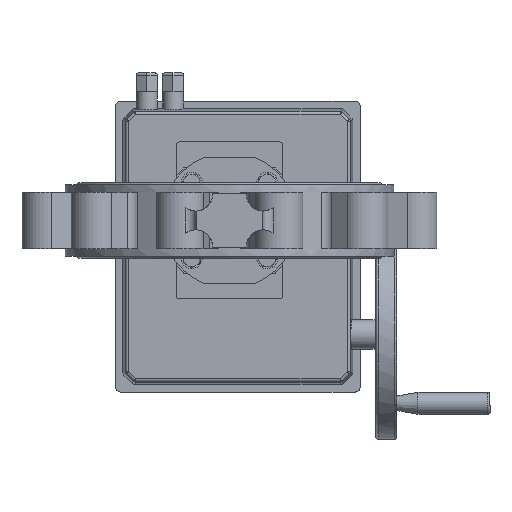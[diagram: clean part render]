
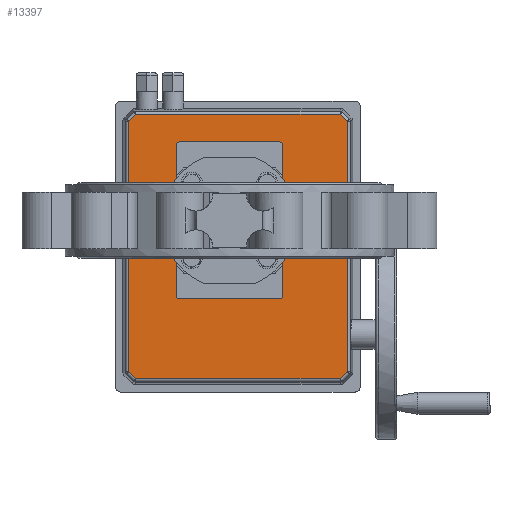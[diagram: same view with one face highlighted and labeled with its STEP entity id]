
A CAD part, front view. The second image highlights one B-rep face of the part: STEP entity #13397.
In plain terms, the highlighted planar face has unit normal (0, -1, 0).
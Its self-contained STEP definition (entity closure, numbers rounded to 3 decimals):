
#174 = VECTOR ( 'NONE', #16774, 1000. ) ;
#366 = CARTESIAN_POINT ( 'NONE',  ( -72., -75., 48. ) ) ;
#471 = LINE ( 'NONE', #15876, #16979 ) ;
#564 = ORIENTED_EDGE ( 'NONE', *, *, #6956, .T. ) ;
#608 = EDGE_CURVE ( 'NONE', #19175, #8300, #27344, .T. ) ;
#700 = CARTESIAN_POINT ( 'NONE',  ( 75., -75., 48. ) ) ;
#922 = LINE ( 'NONE', #12405, #4927 ) ;
#978 = DIRECTION ( 'NONE',  ( 0., 0., -1. ) ) ;
#984 = EDGE_CURVE ( 'NONE', #16453, #8447, #26239, .T. ) ;
#1000 = CARTESIAN_POINT ( 'NONE',  ( -94.715, -75., -96.484 ) ) ;
#1097 = ORIENTED_EDGE ( 'NONE', *, *, #14363, .T. ) ;
#1288 = VECTOR ( 'NONE', #10530, 1000. ) ;
#1617 = EDGE_CURVE ( 'NONE', #6068, #19175, #26420, .T. ) ;
#1689 = ORIENTED_EDGE ( 'NONE', *, *, #20429, .T. ) ;
#1759 = ORIENTED_EDGE ( 'NONE', *, *, #17259, .T. ) ;
#1865 = CIRCLE ( 'NONE', #28609, 3. ) ;
#1939 = VERTEX_POINT ( 'NONE', #23985 ) ;
#2468 = EDGE_CURVE ( 'NONE', #6594, #29268, #28672, .T. ) ;
#2844 = CARTESIAN_POINT ( 'NONE',  ( -72., -75., -51. ) ) ;
#3269 = LINE ( 'NONE', #26451, #16759 ) ;
#3652 = DIRECTION ( 'NONE',  ( 0., 0., 1. ) ) ;
#3805 = CARTESIAN_POINT ( 'NONE',  ( 0., -75., 0. ) ) ;
#3958 = VECTOR ( 'NONE', #20339, 1000. ) ;
#4221 = ORIENTED_EDGE ( 'NONE', *, *, #16002, .T. ) ;
#4443 = CARTESIAN_POINT ( 'NONE',  ( 151.484, -75., 0. ) ) ;
#4564 = CARTESIAN_POINT ( 'NONE',  ( -101.484, -75., -89.715 ) ) ;
#4615 = LINE ( 'NONE', #24953, #17229 ) ;
#4670 = DIRECTION ( 'NONE',  ( 0., 0., -1. ) ) ;
#4927 = VECTOR ( 'NONE', #12261, 1000. ) ;
#5162 = DIRECTION ( 'NONE',  ( 0., 1., 0. ) ) ;
#5848 = EDGE_LOOP ( 'NONE', ( #16765, #20793, #8059, #6428, #4221, #1689, #564, #12343 ) ) ;
#5898 = EDGE_CURVE ( 'NONE', #28412, #18847, #23726, .T. ) ;
#6007 = FACE_OUTER_BOUND ( 'NONE', #5848, .T. ) ;
#6068 = VERTEX_POINT ( 'NONE', #1000 ) ;
#6428 = ORIENTED_EDGE ( 'NONE', *, *, #608, .T. ) ;
#6440 = PLANE ( 'NONE',  #18400 ) ;
#6594 = VERTEX_POINT ( 'NONE', #16052 ) ;
#6792 = CARTESIAN_POINT ( 'NONE',  ( 120.6, -75., -120.6 ) ) ;
#6956 = EDGE_CURVE ( 'NONE', #21837, #16453, #3269, .T. ) ;
#6963 = DIRECTION ( 'NONE',  ( 0., 1., 0. ) ) ;
#7406 = DIRECTION ( 'NONE',  ( 0., 0., 1. ) ) ;
#7719 = EDGE_CURVE ( 'NONE', #17512, #6068, #4615, .T. ) ;
#8059 = ORIENTED_EDGE ( 'NONE', *, *, #1617, .T. ) ;
#8274 = CARTESIAN_POINT ( 'NONE',  ( 0., -75., -96.484 ) ) ;
#8300 = VERTEX_POINT ( 'NONE', #14404 ) ;
#8319 = CARTESIAN_POINT ( 'NONE',  ( 128.6, -75., 128.6 ) ) ;
#8447 = VERTEX_POINT ( 'NONE', #28813 ) ;
#8653 = ORIENTED_EDGE ( 'NONE', *, *, #5898, .T. ) ;
#8913 = DIRECTION ( 'NONE',  ( -0.707, 0., 0.707 ) ) ;
#8943 = VERTEX_POINT ( 'NONE', #29465 ) ;
#8960 = VECTOR ( 'NONE', #16257, 1000. ) ;
#9450 = DIRECTION ( 'NONE',  ( 0., 1., 0. ) ) ;
#10331 = CIRCLE ( 'NONE', #26600, 3. ) ;
#10530 = DIRECTION ( 'NONE',  ( 1., 0., 0. ) ) ;
#11190 = LINE ( 'NONE', #22746, #3958 ) ;
#11519 = VECTOR ( 'NONE', #978, 1000. ) ;
#11706 = ORIENTED_EDGE ( 'NONE', *, *, #17917, .F. ) ;
#12261 = DIRECTION ( 'NONE',  ( 0., 0., -1. ) ) ;
#12343 = ORIENTED_EDGE ( 'NONE', *, *, #984, .T. ) ;
#12405 = CARTESIAN_POINT ( 'NONE',  ( -101.484, -75., -90.915 ) ) ;
#12427 = DIRECTION ( 'NONE',  ( -0.707, 0., -0.707 ) ) ;
#13397 = ADVANCED_FACE ( 'NONE', ( #6007, #15141 ), #6440, .F. ) ;
#14012 = EDGE_CURVE ( 'NONE', #8943, #25156, #15573, .T. ) ;
#14363 = EDGE_CURVE ( 'NONE', #18847, #8943, #471, .T. ) ;
#14404 = CARTESIAN_POINT ( 'NONE',  ( 151.484, -75., -89.715 ) ) ;
#14562 = DIRECTION ( 'NONE',  ( 0., 0., 1. ) ) ;
#15141 = FACE_BOUND ( 'NONE', #24261, .T. ) ;
#15161 = EDGE_CURVE ( 'NONE', #18294, #29268, #10331, .T. ) ;
#15506 = LINE ( 'NONE', #8319, #15518 ) ;
#15518 = VECTOR ( 'NONE', #8913, 1000. ) ;
#15573 = CIRCLE ( 'NONE', #19394, 3. ) ;
#15876 = CARTESIAN_POINT ( 'NONE',  ( 75., -75., 0. ) ) ;
#15940 = DIRECTION ( 'NONE',  ( 0.707, 0., 0.707 ) ) ;
#16002 = EDGE_CURVE ( 'NONE', #8300, #19786, #25079, .T. ) ;
#16052 = CARTESIAN_POINT ( 'NONE',  ( -75., -75., 48. ) ) ;
#16257 = DIRECTION ( 'NONE',  ( 0., 0., 1. ) ) ;
#16453 = VERTEX_POINT ( 'NONE', #22377 ) ;
#16759 = VECTOR ( 'NONE', #28371, 1000. ) ;
#16765 = ORIENTED_EDGE ( 'NONE', *, *, #17871, .T. ) ;
#16774 = DIRECTION ( 'NONE',  ( 1., 0., 0. ) ) ;
#16979 = VECTOR ( 'NONE', #4670, 1000. ) ;
#17033 = AXIS2_PLACEMENT_3D ( 'NONE', #25540, #6963, #7406 ) ;
#17229 = VECTOR ( 'NONE', #20314, 1000. ) ;
#17259 = EDGE_CURVE ( 'NONE', #1939, #28412, #11190, .T. ) ;
#17512 = VERTEX_POINT ( 'NONE', #4564 ) ;
#17871 = EDGE_CURVE ( 'NONE', #8447, #17512, #922, .T. ) ;
#17917 = EDGE_CURVE ( 'NONE', #18294, #25156, #25619, .T. ) ;
#18294 = VERTEX_POINT ( 'NONE', #2844 ) ;
#18400 = AXIS2_PLACEMENT_3D ( 'NONE', #3805, #19781, #3652 ) ;
#18737 = CARTESIAN_POINT ( 'NONE',  ( -102.332, -75., 104.867 ) ) ;
#18847 = VERTEX_POINT ( 'NONE', #700 ) ;
#19175 = VERTEX_POINT ( 'NONE', #21692 ) ;
#19249 = CARTESIAN_POINT ( 'NONE',  ( 72., -75., -48. ) ) ;
#19394 = AXIS2_PLACEMENT_3D ( 'NONE', #19249, #21949, #28705 ) ;
#19781 = DIRECTION ( 'NONE',  ( 0., 1., 0. ) ) ;
#19786 = VERTEX_POINT ( 'NONE', #27141 ) ;
#19822 = CARTESIAN_POINT ( 'NONE',  ( -75., -75., 0. ) ) ;
#20207 = CARTESIAN_POINT ( 'NONE',  ( 72., -75., -51. ) ) ;
#20314 = DIRECTION ( 'NONE',  ( 0.707, 0., -0.707 ) ) ;
#20339 = DIRECTION ( 'NONE',  ( 1., 0., 0. ) ) ;
#20429 = EDGE_CURVE ( 'NONE', #19786, #21837, #15506, .T. ) ;
#20793 = ORIENTED_EDGE ( 'NONE', *, *, #7719, .T. ) ;
#21240 = CARTESIAN_POINT ( 'NONE',  ( 0., -75., -51. ) ) ;
#21278 = ORIENTED_EDGE ( 'NONE', *, *, #2468, .F. ) ;
#21692 = CARTESIAN_POINT ( 'NONE',  ( 144.715, -75., -96.484 ) ) ;
#21837 = VERTEX_POINT ( 'NONE', #26400 ) ;
#21949 = DIRECTION ( 'NONE',  ( 0., 1., 0. ) ) ;
#22377 = CARTESIAN_POINT ( 'NONE',  ( -94.715, -75., 112.484 ) ) ;
#22746 = CARTESIAN_POINT ( 'NONE',  ( 0., -75., 51. ) ) ;
#23726 = CIRCLE ( 'NONE', #17033, 3. ) ;
#23985 = CARTESIAN_POINT ( 'NONE',  ( -72., -75., 51. ) ) ;
#24261 = EDGE_LOOP ( 'NONE', ( #21278, #25270, #1759, #8653, #1097, #28625, #11706, #27338 ) ) ;
#24953 = CARTESIAN_POINT ( 'NONE',  ( -95.6, -75., -95.6 ) ) ;
#25079 = LINE ( 'NONE', #4443, #8960 ) ;
#25156 = VERTEX_POINT ( 'NONE', #20207 ) ;
#25270 = ORIENTED_EDGE ( 'NONE', *, *, #27398, .T. ) ;
#25478 = DIRECTION ( 'NONE',  ( 0., 0., 1. ) ) ;
#25540 = CARTESIAN_POINT ( 'NONE',  ( 72., -75., 48. ) ) ;
#25619 = LINE ( 'NONE', #21240, #174 ) ;
#25692 = CARTESIAN_POINT ( 'NONE',  ( -72., -75., -48. ) ) ;
#26239 = LINE ( 'NONE', #18737, #29169 ) ;
#26400 = CARTESIAN_POINT ( 'NONE',  ( 144.715, -75., 112.484 ) ) ;
#26420 = LINE ( 'NONE', #8274, #1288 ) ;
#26451 = CARTESIAN_POINT ( 'NONE',  ( -95.915, -75., 112.484 ) ) ;
#26600 = AXIS2_PLACEMENT_3D ( 'NONE', #25692, #5162, #14562 ) ;
#27141 = CARTESIAN_POINT ( 'NONE',  ( 151.484, -75., 105.715 ) ) ;
#27338 = ORIENTED_EDGE ( 'NONE', *, *, #15161, .T. ) ;
#27344 = LINE ( 'NONE', #6792, #29012 ) ;
#27398 = EDGE_CURVE ( 'NONE', #6594, #1939, #1865, .T. ) ;
#28371 = DIRECTION ( 'NONE',  ( -1., 0., 0. ) ) ;
#28412 = VERTEX_POINT ( 'NONE', #29121 ) ;
#28609 = AXIS2_PLACEMENT_3D ( 'NONE', #366, #9450, #25478 ) ;
#28625 = ORIENTED_EDGE ( 'NONE', *, *, #14012, .T. ) ;
#28672 = LINE ( 'NONE', #19822, #11519 ) ;
#28705 = DIRECTION ( 'NONE',  ( 0., 0., 1. ) ) ;
#28813 = CARTESIAN_POINT ( 'NONE',  ( -101.484, -75., 105.715 ) ) ;
#29012 = VECTOR ( 'NONE', #15940, 1000. ) ;
#29121 = CARTESIAN_POINT ( 'NONE',  ( 72., -75., 51. ) ) ;
#29169 = VECTOR ( 'NONE', #12427, 1000. ) ;
#29268 = VERTEX_POINT ( 'NONE', #29467 ) ;
#29465 = CARTESIAN_POINT ( 'NONE',  ( 75., -75., -48. ) ) ;
#29467 = CARTESIAN_POINT ( 'NONE',  ( -75., -75., -48. ) ) ;
